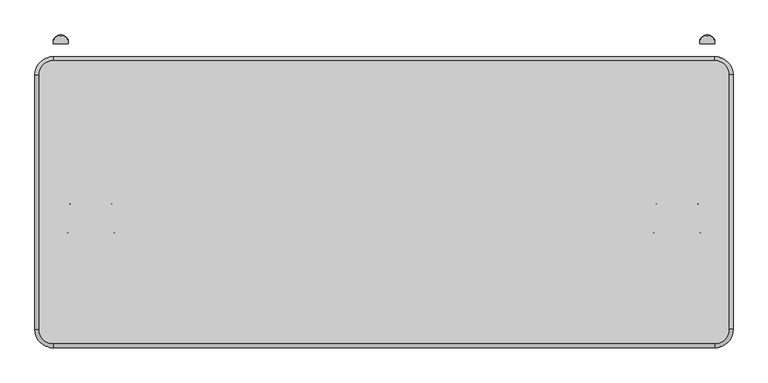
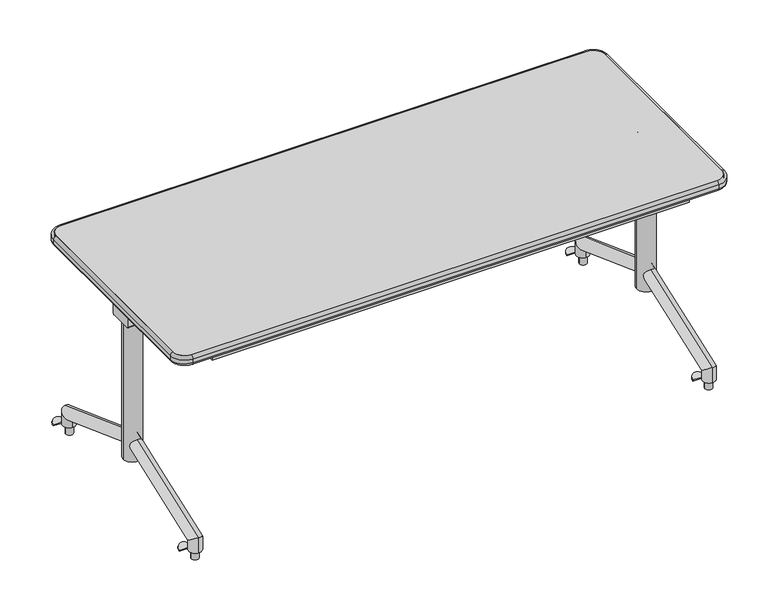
"""IFC4 building model written with IfcOpenShell, lengths in millimetres: furniture geometry, SmithSystem_AM_Table_Education_Elemental_NestAndFold_30D : 30D x 72W."""

from ifc_helpers import new_model, si_unit, point, frame, frame_2d, origin, place, context, project, spatial, polyline, circle_curve, ellipse_curve, trimmed, segment, composite_curve, outline, extrude, source, transform, mapped, element, save
from ifc_brep_helpers import plane_surface, cylinder_surface, revolved_surface, advanced_brep


def furniture_a024421f(model_context):
    return source(origin(), model_context, "Body", "SolidModel", [
        advanced_brep(
        [(1639.5134706, -376.5641301, 727.8257265), (1639.5134706, -383.8350093, 724.192725), (1631.8335156, -376.5641301, 727.8257265), (1631.8335156, -383.8350093, 724.192725), (1626.3159237, -388.7707555, 721.7265071), (1618.1879237, -388.7707555, 721.7265071), (1618.1879237, -454.0125708, 689.1274772), (1626.3159237, -454.0125708, 689.1274772), (1631.9310849, -459.0355973, 686.6176484), (1631.9310849, -466.3064765, 682.9846469), (1732.0139747, -466.3064765, 682.9846469), (1732.0139747, -459.0355973, 686.6176484), (1737.6070377, -454.0323387, 689.1175999), (1745.7350377, -454.0323387, 689.1175999), (1745.7350377, -388.8793981, 721.6722222), (1737.6070377, -388.8793981, 721.6722222), (1731.9679959, -383.8350093, 724.192725), (1731.9679959, -376.5641301, 727.8257265), (1724.4094908, -376.5641301, 727.8257265), (1724.4094908, -383.8350093, 724.192725)],
        [
            (0, 1, circle_curve(frame((1639.5134706, -380.1995697, 726.0092257), z_axis=(1.0, 0.0, 0.0), x_axis=(0.0, -0.8945471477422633, -0.4469736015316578)), 4.064)),
            (1, 0, circle_curve(frame((1639.5134706, -380.1995697, 726.0092257), z_axis=(1.0, 0.0, 0.0), x_axis=(0.0, -0.8945471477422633, -0.4469736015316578)), 4.064)),
            (0, 2),
            (2, 3, circle_curve(frame((1631.8335156, -380.1995697, 726.0092257), z_axis=(1.0, 0.0, 0.0), x_axis=(0.0, -0.8945471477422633, -0.4469736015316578)), 4.064)),
            (3, 1),
            (3, 2, circle_curve(frame((1631.8335156, -380.1995697, 726.0092257), z_axis=(1.0, 0.0, 0.0), x_axis=(0.0, -0.8945471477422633, -0.4469736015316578)), 4.064)),
            (4, 3, circle_curve(frame((1631.8335156, -388.7707555, 721.7265071), z_axis=(0.0, 0.4469736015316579, -0.8945471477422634), x_axis=(0.0, 0.8945471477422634, 0.4469736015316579)), 5.517592)),
            (2, 5, circle_curve(frame((1631.8335156, -388.7707555, 721.7265071), z_axis=(0.0, -0.4469736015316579, 0.8945471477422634), x_axis=(0.0, 0.8945471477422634, 0.4469736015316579)), 13.645592)),
            (5, 4, circle_curve(frame((1622.2519237, -388.7707555, 721.7265071), z_axis=(0.0, 0.8945471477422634, 0.44697360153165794), x_axis=(1.0, 0.0, 0.0)), 4.064)),
            (4, 5, circle_curve(frame((1622.2519237, -388.7707555, 721.7265071), z_axis=(0.0, 0.8945471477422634, 0.44697360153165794), x_axis=(1.0, 0.0, 0.0)), 4.064)),
            (5, 6),
            (6, 7, circle_curve(frame((1622.2519237, -454.0125708, 689.1274772), z_axis=(0.0, 0.8945471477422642, 0.4469736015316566), x_axis=(1.0, 0.0, 0.0)), 4.064)),
            (7, 4),
            (7, 6, circle_curve(frame((1622.2519237, -454.0125708, 689.1274772), z_axis=(0.0, 0.8945471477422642, 0.4469736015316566), x_axis=(1.0, 0.0, 0.0)), 4.064)),
            (8, 7, circle_curve(frame((1631.9310849, -454.0125708, 689.1274772), z_axis=(0.0, 0.4469736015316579, -0.8945471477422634), x_axis=(-1.0, 0.0, 0.0)), 5.6151612)),
            (6, 9, circle_curve(frame((1631.9310849, -454.0125708, 689.1274772), z_axis=(0.0, -0.4469736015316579, 0.8945471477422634), x_axis=(-1.0, 0.0, 0.0)), 13.7431612)),
            (9, 8, circle_curve(frame((1631.9310849, -462.6710369, 684.8011476), z_axis=(-1.0, 0.0, 0.0), x_axis=(0.0, 0.8945471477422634, 0.44697360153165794)), 4.064)),
            (8, 9, circle_curve(frame((1631.9310849, -462.6710369, 684.8011476), z_axis=(-1.0, 0.0, 0.0), x_axis=(0.0, 0.8945471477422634, 0.44697360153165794)), 4.064)),
            (9, 10),
            (10, 11, circle_curve(frame((1732.0139747, -462.6710369, 684.8011476), z_axis=(-1.0, 0.0, 0.0), x_axis=(0.0, 0.8945471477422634, 0.4469736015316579)), 4.064)),
            (11, 8),
            (11, 10, circle_curve(frame((1732.0139747, -462.6710369, 684.8011476), z_axis=(-1.0, 0.0, 0.0), x_axis=(0.0, 0.8945471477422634, 0.4469736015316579)), 4.064)),
            (12, 11, circle_curve(frame((1732.0139747, -454.0323387, 689.1175999), z_axis=(0.0, 0.4469736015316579, -0.8945471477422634), x_axis=(0.0, -0.8945471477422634, -0.4469736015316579)), 5.593063)),
            (10, 13, circle_curve(frame((1732.0139747, -454.0323387, 689.1175999), z_axis=(0.0, -0.4469736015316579, 0.8945471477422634), x_axis=(0.0, -0.8945471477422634, -0.4469736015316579)), 13.721063)),
            (13, 12, circle_curve(frame((1741.6710377, -454.0323387, 689.1175999), z_axis=(0.0, -0.8945471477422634, -0.44697360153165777), x_axis=(-1.0, 0.0, 0.0)), 4.064)),
            (12, 13, circle_curve(frame((1741.6710377, -454.0323387, 689.1175999), z_axis=(0.0, -0.8945471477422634, -0.44697360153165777), x_axis=(-1.0, 0.0, 0.0)), 4.064)),
            (13, 14),
            (14, 15, circle_curve(frame((1741.6710377, -388.8793981, 721.6722222), z_axis=(0.0, -0.8945471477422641, -0.4469736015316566), x_axis=(-1.0, 0.0, 0.0)), 4.064)),
            (15, 12),
            (15, 14, circle_curve(frame((1741.6710377, -388.8793981, 721.6722222), z_axis=(0.0, -0.8945471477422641, -0.4469736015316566), x_axis=(-1.0, 0.0, 0.0)), 4.064)),
            (16, 15, circle_curve(frame((1731.9679959, -388.8793981, 721.6722222), z_axis=(0.0, 0.4469736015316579, -0.8945471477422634), x_axis=(1.0, 0.0, 0.0)), 5.6390418)),
            (14, 17, circle_curve(frame((1731.9679959, -388.8793981, 721.6722222), z_axis=(0.0, -0.4469736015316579, 0.8945471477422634), x_axis=(1.0, 0.0, 0.0)), 13.7670418)),
            (17, 16, circle_curve(frame((1731.9679959, -380.1995697, 726.0092257), z_axis=(1.0, 0.0, 0.0), x_axis=(0.0, -0.8945471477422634, -0.4469736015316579)), 4.064)),
            (16, 17, circle_curve(frame((1731.9679959, -380.1995697, 726.0092257), z_axis=(1.0, 0.0, 0.0), x_axis=(0.0, -0.8945471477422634, -0.4469736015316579)), 4.064)),
            (18, 19, circle_curve(frame((1724.4094908, -380.1995697, 726.0092257), z_axis=(-1.0, 0.0, 0.0), x_axis=(0.0, -0.8945471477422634, -0.4469736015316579)), 4.064)),
            (19, 18, circle_curve(frame((1724.4094908, -380.1995697, 726.0092257), z_axis=(-1.0, 0.0, 0.0), x_axis=(0.0, -0.8945471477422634, -0.4469736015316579)), 4.064)),
            (17, 18),
            (19, 16),
        ],
        [
            plane_surface(frame((1639.5134706, -370.4506725, 697.3892853), z_axis=(1.0, 0.0, 0.0), x_axis=(0.0, -0.4469736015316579, 0.8945471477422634))),
            cylinder_surface(frame((1639.5134706, -380.1995697, 726.0092257), z_axis=(0.9999999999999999, 0.0, 0.0), x_axis=(0.0, -0.8945471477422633, -0.4469736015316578)), 4.064),
            revolved_surface(trimmed(ellipse_curve(frame((1631.8335156, -380.1995697, 726.0092257), z_axis=(1.0, 0.0, 0.0), x_axis=(0.0, -0.8945471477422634, -0.4469736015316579)), 4.064, 4.064), [point((1631.8335156, -376.5641301, 727.8257265))], [point((1631.8335156, -383.8350093, 724.192725))], True, "CARTESIAN"), (1631.8335156, -375.3797009, 694.926424), (0.0, -0.4469736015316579, 0.8945471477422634)),
            revolved_surface(trimmed(ellipse_curve(frame((1631.8335156, -380.1995697, 726.0092257), z_axis=(1.0, 0.0, 0.0), x_axis=(0.0, -0.8945471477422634, -0.4469736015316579)), 4.064, 4.064), [point((1631.8335156, -383.8350093, 724.192725))], [point((1631.8335156, -376.5641301, 727.8257265))], True, "CARTESIAN"), (1631.8335156, -375.3797009, 694.926424), (0.0, -0.4469736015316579, 0.8945471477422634)),
            cylinder_surface(frame((1622.2519237, -388.7707555, 721.7265071), z_axis=(0.0, 0.894547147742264, 0.4469736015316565), x_axis=(1.0, 0.0, 0.0)), 4.064),
            revolved_surface(trimmed(ellipse_curve(frame((1622.2519237, -454.0125708, 689.1274772), z_axis=(0.0, 0.8945471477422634, 0.446973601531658), x_axis=(1.0, 0.0, 0.0)), 4.064, 4.064), [point((1618.1879237, -454.0125708, 689.1274772))], [point((1626.3159237, -454.0125708, 689.1274772))], True, "CARTESIAN"), (1631.9310849, -440.6215163, 662.3273941), (0.0, -0.4469736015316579, 0.8945471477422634)),
            revolved_surface(trimmed(ellipse_curve(frame((1622.2519237, -454.0125708, 689.1274772), z_axis=(0.0, 0.8945471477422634, 0.446973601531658), x_axis=(1.0, 0.0, 0.0)), 4.064, 4.064), [point((1626.3159237, -454.0125708, 689.1274772))], [point((1618.1879237, -454.0125708, 689.1274772))], True, "CARTESIAN"), (1631.9310849, -440.6215163, 662.3273941), (0.0, -0.4469736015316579, 0.8945471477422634)),
            cylinder_surface(frame((1631.9310849, -462.6710369, 684.8011476), z_axis=(-1.0, 0.0, 0.0), x_axis=(0.0, 0.8945471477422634, 0.4469736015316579)), 4.064),
            revolved_surface(trimmed(ellipse_curve(frame((1732.0139747, -462.6710369, 684.8011476), z_axis=(-1.0, 0.0, 0.0), x_axis=(0.0, 0.8945471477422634, 0.4469736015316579)), 4.064, 4.064), [point((1732.0139747, -466.3064765, 682.9846469))], [point((1732.0139747, -459.0355973, 686.6176484))], True, "CARTESIAN"), (1732.0139747, -440.6412842, 662.3175168), (0.0, -0.4469736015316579, 0.8945471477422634)),
            revolved_surface(trimmed(ellipse_curve(frame((1732.0139747, -462.6710369, 684.8011476), z_axis=(-1.0, 0.0, 0.0), x_axis=(0.0, 0.8945471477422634, 0.4469736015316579)), 4.064, 4.064), [point((1732.0139747, -459.0355973, 686.6176484))], [point((1732.0139747, -466.3064765, 682.9846469))], True, "CARTESIAN"), (1732.0139747, -440.6412842, 662.3175168), (0.0, -0.4469736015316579, 0.8945471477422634)),
            cylinder_surface(frame((1741.6710377, -454.0323387, 689.1175999), z_axis=(0.0, -0.8945471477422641, -0.4469736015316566), x_axis=(-1.0, 0.0, 0.0)), 4.064),
            revolved_surface(trimmed(ellipse_curve(frame((1741.6710377, -388.8793981, 721.6722222), z_axis=(0.0, -0.8945471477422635, -0.44697360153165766), x_axis=(-1.0, 0.0, 0.0)), 4.064, 4.064), [point((1745.7350377, -388.8793981, 721.6722222))], [point((1737.6070377, -388.8793981, 721.6722222))], True, "CARTESIAN"), (1731.9679959, -375.4883435, 694.8721391), (0.0, -0.4469736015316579, 0.8945471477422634)),
            revolved_surface(trimmed(ellipse_curve(frame((1741.6710377, -388.8793981, 721.6722222), z_axis=(0.0, -0.8945471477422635, -0.44697360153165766), x_axis=(-1.0, 0.0, 0.0)), 4.064, 4.064), [point((1737.6070377, -388.8793981, 721.6722222))], [point((1745.7350377, -388.8793981, 721.6722222))], True, "CARTESIAN"), (1731.9679959, -375.4883435, 694.8721391), (0.0, -0.4469736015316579, 0.8945471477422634)),
            plane_surface(frame((1724.4094908, -370.4506725, 697.3892853), z_axis=(-1.0000000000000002, 0.0, 0.0), x_axis=(0.0, -0.4469736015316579, 0.8945471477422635))),
            cylinder_surface(frame((1731.9679959, -380.1995697, 726.0092257), z_axis=(1.0, 0.0, 0.0), x_axis=(0.0, -0.8945471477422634, -0.4469736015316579)), 4.064),
        ],
        [
            (0, [[1, 2]]),
            (1, [[-1, 3, 4, 5]]),
            (1, [[-2, -5, 6, -3]]),
            (2, [[7, -4, 8, 9]]),
            (3, [[-8, -6, -7, 10]]),
            (4, [[-9, 11, 12, 13]]),
            (4, [[-10, -13, 14, -11]]),
            (5, [[15, -12, 16, 17]]),
            (6, [[-16, -14, -15, 18]]),
            (7, [[-17, 19, 20, 21]]),
            (7, [[-18, -21, 22, -19]]),
            (8, [[23, -20, 24, 25]]),
            (9, [[-24, -22, -23, 26]]),
            (10, [[-25, 27, 28, 29]]),
            (10, [[-26, -29, 30, -27]]),
            (11, [[31, -28, 32, 33]]),
            (12, [[-32, -30, -31, 34]]),
            (13, [[35, 36]]),
            (14, [[-33, 37, -36, 38]]),
            (14, [[-34, -38, -35, -37]]),
        ],
    ),
        advanced_brep(
        [(189.2865294, -383.8222215, 724.1897867), (189.2865294, -376.5513423, 727.8227881), (196.9664844, -383.8222215, 724.1897867), (196.9664844, -376.5513423, 727.8227881), (210.6222023, -388.7670258, 721.7190427), (202.4942023, -388.7670258, 721.7190427), (202.4942023, -454.0088411, 689.1200128), (210.6222023, -454.0088411, 689.1200128), (196.8689151, -466.3118049, 682.9726565), (196.8689151, -459.0409257, 686.605658), (96.7860253, -459.0409257, 686.605658), (96.7860253, -466.3118049, 682.9726565), (83.0548363, -454.0286091, 689.1101355), (91.1828363, -454.0286091, 689.1101355), (91.1828363, -388.8756684, 721.6647578), (83.0548363, -388.8756684, 721.6647578), (96.8320041, -376.5513423, 727.8227881), (96.8320041, -383.8222215, 724.1897867), (104.3905092, -383.8222215, 724.1897867), (104.3905092, -376.5513423, 727.8227881)],
        [
            (0, 1, circle_curve(frame((189.2865294, -380.1867819, 726.0062874), z_axis=(-1.0, 0.0, 0.0), x_axis=(0.0, 0.8945471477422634, 0.4469736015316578)), 4.064)),
            (1, 0, circle_curve(frame((189.2865294, -380.1867819, 726.0062874), z_axis=(-1.0, 0.0, 0.0), x_axis=(0.0, 0.8945471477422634, 0.4469736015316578)), 4.064)),
            (0, 2),
            (2, 3, circle_curve(frame((196.9664844, -380.1867819, 726.0062874), z_axis=(-1.0, 0.0, 0.0), x_axis=(0.0, 0.8945471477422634, 0.4469736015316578)), 4.064)),
            (3, 1),
            (3, 2, circle_curve(frame((196.9664844, -380.1867819, 726.0062874), z_axis=(-1.0, 0.0, 0.0), x_axis=(0.0, 0.8945471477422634, 0.4469736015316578)), 4.064)),
            (4, 3, circle_curve(frame((196.9664844, -388.7670258, 721.7190427), z_axis=(0.0, -0.4469736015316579, 0.8945471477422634), x_axis=(0.0, 0.8945471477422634, 0.4469736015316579)), 13.6557179)),
            (2, 5, circle_curve(frame((196.9664844, -388.7670258, 721.7190427), z_axis=(0.0, 0.4469736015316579, -0.8945471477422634), x_axis=(0.0, 0.8945471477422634, 0.4469736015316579)), 5.5277179)),
            (5, 4, circle_curve(frame((206.5582023, -388.7670258, 721.7190427), z_axis=(0.0, 0.8945471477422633, 0.446973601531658), x_axis=(1.0, 0.0, 0.0)), 4.064)),
            (4, 5, circle_curve(frame((206.5582023, -388.7670258, 721.7190427), z_axis=(0.0, 0.8945471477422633, 0.446973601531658), x_axis=(1.0, 0.0, 0.0)), 4.064)),
            (5, 6),
            (6, 7, circle_curve(frame((206.5582023, -454.0088411, 689.1200128), z_axis=(0.0, 0.8945471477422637, 0.4469736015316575), x_axis=(1.0, 0.0, 0.0)), 4.064)),
            (7, 4),
            (7, 6, circle_curve(frame((206.5582023, -454.0088411, 689.1200128), z_axis=(0.0, 0.8945471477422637, 0.4469736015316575), x_axis=(1.0, 0.0, 0.0)), 4.064)),
            (8, 7, circle_curve(frame((196.8689151, -454.0088411, 689.1200128), z_axis=(0.0, -0.4469736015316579, 0.8945471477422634), x_axis=(1.0, 0.0, 0.0)), 13.7532872)),
            (6, 9, circle_curve(frame((196.8689151, -454.0088411, 689.1200128), z_axis=(0.0, 0.4469736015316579, -0.8945471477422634), x_axis=(1.0, 0.0, 0.0)), 5.6252872)),
            (9, 8, circle_curve(frame((196.8689151, -462.6763653, 684.7891573), z_axis=(1.0, 0.0, 0.0), x_axis=(0.0, -0.8945471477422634, -0.44697360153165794)), 4.064)),
            (8, 9, circle_curve(frame((196.8689151, -462.6763653, 684.7891573), z_axis=(1.0, 0.0, 0.0), x_axis=(0.0, -0.8945471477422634, -0.44697360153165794)), 4.064)),
            (9, 10),
            (10, 11, circle_curve(frame((96.7860253, -462.6763653, 684.7891573), z_axis=(1.0, 0.0, 0.0), x_axis=(0.0, -0.8945471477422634, -0.446973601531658)), 4.064)),
            (11, 8),
            (11, 10, circle_curve(frame((96.7860253, -462.6763653, 684.7891573), z_axis=(1.0, 0.0, 0.0), x_axis=(0.0, -0.8945471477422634, -0.446973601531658)), 4.064)),
            (12, 11, circle_curve(frame((96.7860253, -454.0286091, 689.1101355), z_axis=(0.0, -0.4469736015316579, 0.8945471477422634), x_axis=(0.0, -0.8945471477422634, -0.4469736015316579)), 13.7311889)),
            (10, 13, circle_curve(frame((96.7860253, -454.0286091, 689.1101355), z_axis=(0.0, 0.4469736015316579, -0.8945471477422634), x_axis=(0.0, -0.8945471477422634, -0.4469736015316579)), 5.6031889)),
            (13, 12, circle_curve(frame((87.1188363, -454.0286091, 689.1101355), z_axis=(0.0, -0.8945471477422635, -0.44697360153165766), x_axis=(-1.0, 0.0, 0.0)), 4.064)),
            (12, 13, circle_curve(frame((87.1188363, -454.0286091, 689.1101355), z_axis=(0.0, -0.8945471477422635, -0.44697360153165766), x_axis=(-1.0, 0.0, 0.0)), 4.064)),
            (13, 14),
            (14, 15, circle_curve(frame((87.1188363, -388.8756684, 721.6647578), z_axis=(0.0, -0.8945471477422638, -0.446973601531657), x_axis=(-1.0, 0.0, 0.0)), 4.064)),
            (15, 12),
            (15, 14, circle_curve(frame((87.1188363, -388.8756684, 721.6647578), z_axis=(0.0, -0.8945471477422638, -0.446973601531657), x_axis=(-1.0, 0.0, 0.0)), 4.064)),
            (16, 15, circle_curve(frame((96.8320041, -388.8756684, 721.6647578), z_axis=(0.0, -0.4469736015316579, 0.8945471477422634), x_axis=(-1.0, 0.0, 0.0)), 13.7771678)),
            (14, 17, circle_curve(frame((96.8320041, -388.8756684, 721.6647578), z_axis=(0.0, 0.4469736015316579, -0.8945471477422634), x_axis=(-1.0, 0.0, 0.0)), 5.6491678)),
            (17, 16, circle_curve(frame((96.8320041, -380.1867819, 726.0062874), z_axis=(-1.0, 0.0, 0.0), x_axis=(0.0, 0.8945471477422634, 0.44697360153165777)), 4.064)),
            (16, 17, circle_curve(frame((96.8320041, -380.1867819, 726.0062874), z_axis=(-1.0, 0.0, 0.0), x_axis=(0.0, 0.8945471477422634, 0.44697360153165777)), 4.064)),
            (18, 19, circle_curve(frame((104.3905092, -380.1867819, 726.0062874), z_axis=(1.0, 0.0, 0.0), x_axis=(0.0, 0.8945471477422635, 0.44697360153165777)), 4.064)),
            (19, 18, circle_curve(frame((104.3905092, -380.1867819, 726.0062874), z_axis=(1.0, 0.0, 0.0), x_axis=(0.0, 0.8945471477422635, 0.44697360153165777)), 4.064)),
            (17, 18),
            (19, 16),
        ],
        [
            plane_surface(frame((189.2865294, -385.67432, 727.857014), z_axis=(-1.0, 0.0, 0.0), x_axis=(0.0, -0.4469736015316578, 0.8945471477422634))),
            cylinder_surface(frame((189.2865294, -380.1867819, 726.0062874), z_axis=(-0.9999999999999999, 0.0, 0.0), x_axis=(0.0, 0.8945471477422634, 0.4469736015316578)), 4.064),
            revolved_surface(trimmed(ellipse_curve(frame((196.9664844, -380.1867819, 726.0062874), z_axis=(-1.0, 0.0, 0.0), x_axis=(0.0, 0.8945471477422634, 0.4469736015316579)), 4.064, 4.064), [point((196.9664844, -383.8222215, 724.1897867))], [point((196.9664844, -376.5513423, 727.8227881))], True, "CARTESIAN"), (196.9664844, -390.6033484, 725.3941527), (0.0, 0.4469736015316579, -0.8945471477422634)),
            revolved_surface(trimmed(ellipse_curve(frame((196.9664844, -380.1867819, 726.0062874), z_axis=(-1.0, 0.0, 0.0), x_axis=(0.0, 0.8945471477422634, 0.4469736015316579)), 4.064, 4.064), [point((196.9664844, -376.5513423, 727.8227881))], [point((196.9664844, -383.8222215, 724.1897867))], True, "CARTESIAN"), (196.9664844, -390.6033484, 725.3941527), (0.0, 0.4469736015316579, -0.8945471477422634)),
            cylinder_surface(frame((206.5582023, -388.7670258, 721.7190427), z_axis=(0.0, 0.8945471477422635, 0.4469736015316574), x_axis=(1.0, 0.0, 0.0)), 4.064),
            revolved_surface(trimmed(ellipse_curve(frame((206.5582023, -454.0088411, 689.1200128), z_axis=(0.0, 0.8945471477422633, 0.4469736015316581), x_axis=(1.0, 0.0, 0.0)), 4.064, 4.064), [point((202.4942023, -454.0088411, 689.1200128))], [point((210.6222023, -454.0088411, 689.1200128))], True, "CARTESIAN"), (196.8689151, -455.8451638, 692.7951229), (0.0, 0.4469736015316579, -0.8945471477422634)),
            revolved_surface(trimmed(ellipse_curve(frame((206.5582023, -454.0088411, 689.1200128), z_axis=(0.0, 0.8945471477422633, 0.4469736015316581), x_axis=(1.0, 0.0, 0.0)), 4.064, 4.064), [point((210.6222023, -454.0088411, 689.1200128))], [point((202.4942023, -454.0088411, 689.1200128))], True, "CARTESIAN"), (196.8689151, -455.8451638, 692.7951229), (0.0, 0.4469736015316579, -0.8945471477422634)),
            cylinder_surface(frame((196.8689151, -462.6763653, 684.7891573), z_axis=(1.0, 0.0, 0.0), x_axis=(0.0, -0.8945471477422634, -0.446973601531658)), 4.064),
            revolved_surface(trimmed(ellipse_curve(frame((96.7860253, -462.6763653, 684.7891573), z_axis=(1.0, 0.0, 0.0), x_axis=(0.0, -0.8945471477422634, -0.446973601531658)), 4.064, 4.064), [point((96.7860253, -459.0409257, 686.605658))], [point((96.7860253, -466.3118049, 682.9726565))], True, "CARTESIAN"), (96.7860253, -455.8649317, 692.7852455), (0.0, 0.4469736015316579, -0.8945471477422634)),
            revolved_surface(trimmed(ellipse_curve(frame((96.7860253, -462.6763653, 684.7891573), z_axis=(1.0, 0.0, 0.0), x_axis=(0.0, -0.8945471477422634, -0.446973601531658)), 4.064, 4.064), [point((96.7860253, -466.3118049, 682.9726565))], [point((96.7860253, -459.0409257, 686.605658))], True, "CARTESIAN"), (96.7860253, -455.8649317, 692.7852455), (0.0, 0.4469736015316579, -0.8945471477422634)),
            cylinder_surface(frame((87.1188363, -454.0286091, 689.1101355), z_axis=(0.0, -0.8945471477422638, -0.446973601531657), x_axis=(-1.0, 0.0, 0.0)), 4.064),
            revolved_surface(trimmed(ellipse_curve(frame((87.1188363, -388.8756684, 721.6647578), z_axis=(0.0, -0.8945471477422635, -0.4469736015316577), x_axis=(-1.0, 0.0, 0.0)), 4.064, 4.064), [point((91.1828363, -388.8756684, 721.6647578))], [point((83.0548363, -388.8756684, 721.6647578))], True, "CARTESIAN"), (96.8320041, -390.711991, 725.3398679), (0.0, 0.4469736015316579, -0.8945471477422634)),
            revolved_surface(trimmed(ellipse_curve(frame((87.1188363, -388.8756684, 721.6647578), z_axis=(0.0, -0.8945471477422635, -0.4469736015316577), x_axis=(-1.0, 0.0, 0.0)), 4.064, 4.064), [point((83.0548363, -388.8756684, 721.6647578))], [point((91.1828363, -388.8756684, 721.6647578))], True, "CARTESIAN"), (96.8320041, -390.711991, 725.3398679), (0.0, 0.4469736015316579, -0.8945471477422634)),
            plane_surface(frame((104.3905092, -385.67432, 727.857014), z_axis=(1.0, 0.0, 0.0), x_axis=(0.0, -0.4469736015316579, 0.8945471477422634))),
            cylinder_surface(frame((96.8320041, -380.1867819, 726.0062874), z_axis=(-1.0000000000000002, 0.0, 0.0), x_axis=(0.0, 0.8945471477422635, 0.44697360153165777)), 4.064),
        ],
        [
            (0, [[1, 2]]),
            (1, [[-1, 3, 4, 5]]),
            (1, [[-2, -5, 6, -3]]),
            (2, [[7, -4, 8, 9]]),
            (3, [[-8, -6, -7, 10]]),
            (4, [[-9, 11, 12, 13]]),
            (4, [[-10, -13, 14, -11]]),
            (5, [[15, -12, 16, 17]]),
            (6, [[-16, -14, -15, 18]]),
            (7, [[-17, 19, 20, 21]]),
            (7, [[-18, -21, 22, -19]]),
            (8, [[23, -20, 24, 25]]),
            (9, [[-24, -22, -23, 26]]),
            (10, [[-25, 27, 28, 29]]),
            (10, [[-26, -29, 30, -27]]),
            (11, [[31, -28, 32, 33]]),
            (12, [[-32, -30, -31, 34]]),
            (13, [[35, 36]]),
            (14, [[-33, 37, -36, 38]]),
            (14, [[-34, -38, -35, -37]]),
        ],
    ),
        extrude(outline(composite_curve([segment(trimmed(circle_curve(frame_2d((67.6376194, -381.0)), 30.1619336), [point((37.4756858, -381.0))], [point((97.799553, -381.0))], False, "CARTESIAN"), True, "CONTINUOUS"), segment(trimmed(circle_curve(frame_2d((67.6376194, -381.0)), 30.1619336), [point((97.799553, -381.0))], [point((37.4756858, -381.0))], False, "CARTESIAN"), True, "CONTINUOUS")], self_intersect=False)), frame((0.0, 0.0, 176.5765345), z_axis=(0.0, 0.0, 1.0), x_axis=(1.0, 0.0, 0.0)), (0.0, 0.0, 1.0), 482.8708043),
        extrude(outline(composite_curve([segment(trimmed(circle_curve(frame_2d((1761.1623806, -381.0)), 30.1619336), [point((1731.000447, -381.0))], [point((1791.3243142, -381.0))], False, "CARTESIAN"), True, "CONTINUOUS"), segment(trimmed(circle_curve(frame_2d((1761.1623806, -381.0)), 30.1619336), [point((1791.3243142, -381.0))], [point((1731.000447, -381.0))], False, "CARTESIAN"), True, "CONTINUOUS")], self_intersect=False)), frame((0.0, 0.0, 176.5765345), z_axis=(0.0, 0.0, 1.0), x_axis=(1.0, 0.0, 0.0)), (0.0, 0.0, 1.0), 482.8708043),
        extrude(outline(polyline([(161.8904019, -703.4143137), (133.8581916, -703.4143137), (133.8581916, -327.1633652), (161.8904019, -327.1633652), (161.8904019, -703.4143137)])), frame((0.0, 0.0, 720.280274), z_axis=(0.0, 0.0, 1.0), x_axis=(1.0, 0.0, 0.0)), (0.0, 0.0, 1.0), 3.0744342),
        extrude(outline(polyline([(1694.9418084, -703.4143137), (1666.9095981, -703.4143137), (1666.9095981, -327.1633652), (1694.9418084, -327.1633652), (1694.9418084, -703.4143137)])), frame((0.0, 0.0, 720.280274), z_axis=(0.0, 0.0, 1.0), x_axis=(1.0, 0.0, 0.0)), (0.0, 0.0, 1.0), 3.0744342),
        extrude(outline(polyline([(1700.4745397, -703.4143137), (1700.4745397, -733.4147172), (128.3254603, -733.4147172), (128.3254603, -703.4143137), (1700.4745397, -703.4143137)])), frame((0.0, 0.0, 702.9875008), z_axis=(0.0, 0.0, 1.0), x_axis=(1.0, 0.0, 0.0)), (0.0, 0.0, 1.0), 20.3672075),
        extrude(outline(polyline([(-358.6370254, 730.2285912), (-336.5053067, 730.2285912), (-336.5053067, 727.8836076), (-355.5992263, 727.8836076), (-355.5992263, 699.4317459), (-406.4007737, 699.4317459), (-406.4007737, 727.8836076), (-425.4946933, 727.8836076), (-425.4946933, 730.2285912), (-403.3629746, 730.2285912), (-403.3629746, 701.4207676), (-358.6370254, 701.4207676), (-358.6370254, 730.2285912)])), frame((211.3171616, 0.0, 0.0), z_axis=(1.0, 0.0, 0.0), x_axis=(0.0, 1.0, 0.0)), (0.0, 0.0, 1.0), 1406.1656767),
        extrude(outline(polyline([(699.4317459, 102.364461), (699.4317459, 191.3646412), (730.2285912, 191.3646412), (730.2285912, 188.3699958), (702.6757476, 188.3699958), (702.6757476, 105.3591064), (730.2285912, 105.3591064), (730.2285912, 102.364461), (699.4317459, 102.364461)])), frame((0.0, -556.0003829, 0.0), z_axis=(0.0, 1.0, 0.0), x_axis=(0.0, 0.0, 1.0)), (0.0, 0.0, 1.0), 349.9998846),
        extrude(outline(polyline([(699.4317459, 1726.435539), (730.2285912, 1726.435539), (730.2285912, 1723.4408936), (702.6757476, 1723.4408936), (702.6757476, 1640.4300042), (730.2285912, 1640.4300042), (730.2285912, 1637.4353588), (699.4317459, 1637.4353588), (699.4317459, 1726.435539)])), frame((0.0, -556.0003829, 0.0), z_axis=(0.0, 1.0, 0.0), x_axis=(0.0, 0.0, 1.0)), (0.0, 0.0, 1.0), 349.9998846),
        extrude(outline(composite_curve([segment(polyline([(-417.9081299, 699.4317459), (-343.9421288, 699.4317459)]), True, "CONTINUOUS"), segment(trimmed(circle_curve(frame_2d((-343.9421288, 696.268135)), 3.1636109), [point((-343.9421288, 699.4317459))], [point((-340.7785179, 696.268135))], False, "CARTESIAN"), True, "CONTINUOUS"), segment(polyline([(-340.7785179, 696.268135), (-340.7785179, 662.5890828)]), True, "CONTINUOUS"), segment(trimmed(circle_curve(frame_2d((-343.920262, 662.5890828)), 3.1417441), [point((-340.7785179, 662.5890828))], [point((-343.920262, 659.4473388))], False, "CARTESIAN"), True, "CONTINUOUS"), segment(polyline([(-343.920262, 659.4473388), (-418.0879819, 659.4473388)]), True, "CONTINUOUS"), segment(trimmed(circle_curve(frame_2d((-418.0879819, 662.3885905)), 2.9412518), [point((-418.0879819, 659.4473388))], [point((-421.0292336, 662.3885905))], False, "CARTESIAN"), True, "CONTINUOUS"), segment(polyline([(-421.0292336, 662.3885905), (-421.0292336, 696.3106422)]), True, "CONTINUOUS"), segment(trimmed(circle_curve(frame_2d((-417.9081299, 696.3106422)), 3.1211038), [point((-421.0292336, 696.3106422))], [point((-417.9081299, 699.4317459))], False, "CARTESIAN"), True, "CONTINUOUS")], self_intersect=False)), frame((29.2900918, 0.0, 0.0), z_axis=(1.0, 0.0, 0.0), x_axis=(0.0, 1.0, 0.0)), (0.0, 0.0, 1.0), 1770.2198163),
        advanced_brep(
        [(0.0, -47.752, 752.475029), (47.752, 0.0, 752.475029), (47.752, 0.0, 739.7749708), (0.0, -47.752, 739.7749708), (9.652, -47.752, 762.0), (47.752, -9.652, 762.0), (9.652, -47.752, 730.2285912), (47.752, -9.652, 730.2285912), (0.0, -714.248, 739.7749708), (0.0, -714.248, 752.475029), (9.652, -714.248, 762.0), (9.652, -714.248, 730.2285912), (47.752, -762.0, 752.475029), (47.752, -762.0, 739.7749708), (47.752, -752.348, 762.0), (47.752, -752.348, 730.2285912), (1781.048, -762.0, 739.7749708), (1781.048, -762.0, 752.475029), (1781.048, -752.348, 762.0), (1781.048, -752.348, 730.2285912), (1828.8, -714.248, 752.475029), (1828.8, -714.248, 739.7749708), (1819.148, -714.248, 762.0), (1819.148, -714.248, 730.2285912), (1828.8, -47.752, 739.7749708), (1828.8, -47.752, 752.475029), (1819.148, -47.752, 762.0), (1819.148, -47.752, 730.2285912), (1781.048, 0.0, 752.475029), (1781.048, 0.0, 739.7749708), (1781.048, -9.652, 762.0), (1781.048, -9.652, 730.2285912)],
        [
            (0, 1, circle_curve(frame((47.752, -47.752, 752.475029), z_axis=(0.0, 0.0, -1.0), x_axis=(0.0, 1.0, 0.0)), 47.752)),
            (1, 2),
            (2, 3, circle_curve(frame((47.752, -47.752, 739.7749708), z_axis=(0.0, 0.0, 1.0), x_axis=(0.0, 1.0, 0.0)), 47.752)),
            (3, 0),
            (4, 5, circle_curve(frame((47.752, -47.752, 762.0), z_axis=(0.0, 0.0, -1.0), x_axis=(0.0, 1.0, 0.0)), 38.1)),
            (5, 1, circle_curve(frame((47.752, -9.5258069, 752.475029), z_axis=(-1.0, 0.0, 0.0), x_axis=(0.0, -1.0, 0.0)), 9.5258069)),
            (0, 4, circle_curve(frame((9.5258069, -47.752, 752.475029), z_axis=(0.0, 1.0, 0.0), x_axis=(1.0, 0.0, 0.0)), 9.5258069)),
            (6, 7, circle_curve(frame((47.752, -47.752, 730.2285912), z_axis=(0.0, 0.0, -1.0), x_axis=(0.0, 1.0, 0.0)), 38.1)),
            (7, 5),
            (4, 6),
            (2, 7, circle_curve(frame((47.752, -9.5469575, 739.7749708), z_axis=(-1.0, 0.0, 0.0), x_axis=(0.0, -1.0, 0.0)), 9.5469575)),
            (6, 3, circle_curve(frame((9.5469575, -47.752, 739.7749708), z_axis=(0.0, 1.0, 0.0), x_axis=(1.0, 0.0, 0.0)), 9.5469575)),
            (3, 8),
            (8, 9),
            (9, 0),
            (9, 10, circle_curve(frame((9.5258069, -714.248, 752.475029), z_axis=(0.0, 1.0, 0.0), x_axis=(1.0, 0.0, 0.0)), 9.5258069)),
            (10, 4),
            (10, 11),
            (11, 6),
            (11, 8, circle_curve(frame((9.5469575, -714.248, 739.7749708), z_axis=(0.0, 1.0, 0.0), x_axis=(1.0, 0.0, 0.0)), 9.5469575)),
            (12, 9, circle_curve(frame((47.752, -714.248, 752.475029), z_axis=(0.0, 0.0, -1.0), x_axis=(-1.0, 0.0, 0.0)), 47.752)),
            (8, 13, circle_curve(frame((47.752, -714.248, 739.7749708), z_axis=(0.0, 0.0, 1.0), x_axis=(-1.0, 0.0, 0.0)), 47.752)),
            (13, 12),
            (14, 10, circle_curve(frame((47.752, -714.248, 762.0), z_axis=(0.0, 0.0, -1.0), x_axis=(-1.0, 0.0, 0.0)), 38.1)),
            (12, 14, circle_curve(frame((47.752, -752.4741931, 752.475029), z_axis=(-1.0, 0.0, 0.0), x_axis=(0.0, 1.0, 0.0)), 9.5258069)),
            (15, 11, circle_curve(frame((47.752, -714.248, 730.2285912), z_axis=(0.0, 0.0, -1.0), x_axis=(-1.0, 0.0, 0.0)), 38.1)),
            (14, 15),
            (15, 13, circle_curve(frame((47.752, -752.4530425, 739.7749708), z_axis=(-1.0, 0.0, 0.0), x_axis=(0.0, 1.0, 0.0)), 9.5469575)),
            (13, 16),
            (16, 17),
            (17, 12),
            (17, 18, circle_curve(frame((1781.048, -752.4741931, 752.475029), z_axis=(-1.0, 0.0, 0.0), x_axis=(0.0, 1.0, 0.0)), 9.5258069)),
            (18, 14),
            (18, 19),
            (19, 15),
            (19, 16, circle_curve(frame((1781.048, -752.4530425, 739.7749708), z_axis=(-1.0, 0.0, 0.0), x_axis=(0.0, 1.0, 0.0)), 9.5469575)),
            (20, 17, circle_curve(frame((1781.048, -714.248, 752.475029), z_axis=(0.0, 0.0, -1.0), x_axis=(0.0, -1.0, 0.0)), 47.752)),
            (16, 21, circle_curve(frame((1781.048, -714.248, 739.7749708), z_axis=(0.0, 0.0, 1.0), x_axis=(0.0, -1.0, 0.0)), 47.752)),
            (21, 20),
            (22, 18, circle_curve(frame((1781.048, -714.248, 762.0), z_axis=(0.0, 0.0, -1.0), x_axis=(0.0, -1.0, 0.0)), 38.1)),
            (20, 22, circle_curve(frame((1819.2741931, -714.248, 752.475029), z_axis=(0.0, -1.0, 0.0), x_axis=(-1.0, 0.0, 0.0)), 9.5258069)),
            (23, 19, circle_curve(frame((1781.048, -714.248, 730.2285912), z_axis=(0.0, 0.0, -1.0), x_axis=(0.0, -1.0, 0.0)), 38.1)),
            (22, 23),
            (23, 21, circle_curve(frame((1819.2530425, -714.248, 739.7749708), z_axis=(0.0, -1.0, 0.0), x_axis=(-1.0, 0.0, 0.0)), 9.5469575)),
            (21, 24),
            (24, 25),
            (25, 20),
            (25, 26, circle_curve(frame((1819.2741931, -47.752, 752.475029), z_axis=(0.0, -1.0, 0.0), x_axis=(-1.0, 0.0, 0.0)), 9.5258069)),
            (26, 22),
            (26, 27),
            (27, 23),
            (27, 24, circle_curve(frame((1819.2530425, -47.752, 739.7749708), z_axis=(0.0, -1.0, 0.0), x_axis=(-1.0, 0.0, 0.0)), 9.5469575)),
            (28, 25, circle_curve(frame((1781.048, -47.752, 752.475029), z_axis=(0.0, 0.0, -1.0), x_axis=(1.0, 0.0, 0.0)), 47.752)),
            (24, 29, circle_curve(frame((1781.048, -47.752, 739.7749708), z_axis=(0.0, 0.0, 1.0), x_axis=(1.0, 0.0, 0.0)), 47.752)),
            (29, 28),
            (30, 26, circle_curve(frame((1781.048, -47.752, 762.0), z_axis=(0.0, 0.0, -1.0), x_axis=(1.0, 0.0, 0.0)), 38.1)),
            (28, 30, circle_curve(frame((1781.048, -9.5258069, 752.475029), z_axis=(1.0, 0.0, 0.0), x_axis=(0.0, -1.0, 0.0)), 9.5258069)),
            (31, 27, circle_curve(frame((1781.048, -47.752, 730.2285912), z_axis=(0.0, 0.0, -1.0), x_axis=(1.0, 0.0, 0.0)), 38.1)),
            (30, 31),
            (31, 29, circle_curve(frame((1781.048, -9.5469575, 739.7749708), z_axis=(1.0, 0.0, 0.0), x_axis=(0.0, -1.0, 0.0)), 9.5469575)),
            (29, 2),
            (1, 28),
            (5, 30),
            (7, 31),
        ],
        [
            cylinder_surface(frame((47.752, -47.752, 0.0), z_axis=(0.0, 0.0, 1.0), x_axis=(0.0, 1.0, 0.0)), 47.752),
            revolved_surface(trimmed(ellipse_curve(frame((47.752, -9.5258069, 752.475029), z_axis=(1.0, 0.0, 0.0), x_axis=(0.0, -1.0, 0.0)), 9.5258069, 9.5258069), [point((47.752, 0.0, 752.475029))], [point((47.752, -9.652, 762.0))], True, "CARTESIAN"), (47.752, -47.752, 0.0), (0.0, 0.0, 1.0)),
            revolved_surface(polyline([(47.752, -9.652000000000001, 762.0), (47.752, -9.652000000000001, 730.2285912)]), (47.752, -47.752, 0.0), (0.0, 0.0, 1.0)),
            revolved_surface(trimmed(ellipse_curve(frame((47.752, -9.5469575, 739.7749708), z_axis=(1.0, 0.0, 0.0), x_axis=(0.0, -1.0, 0.0)), 9.5469575, 9.5469575), [point((47.752, -9.652, 730.2285912))], [point((47.752, 0.0, 739.7749708))], True, "CARTESIAN"), (47.752, -47.752, 0.0), (0.0, 0.0, 1.0)),
            plane_surface(frame((0.0, -47.752, 739.7749708), z_axis=(-1.0, 0.0, 0.0), x_axis=(0.0, -1.0, 0.0))),
            cylinder_surface(frame((9.5258069, -47.752, 752.475029), z_axis=(0.0, 1.0, 0.0), x_axis=(1.0, 0.0, 0.0)), 9.5258069),
            plane_surface(frame((9.652, -47.752, 762.0), z_axis=(1.0, 0.0, 0.0), x_axis=(0.0, -1.0, 0.0))),
            cylinder_surface(frame((9.5469575, -47.752, 739.7749708), z_axis=(0.0, 1.0, 0.0), x_axis=(1.0, 0.0, 0.0)), 9.5469575),
            cylinder_surface(frame((47.752, -714.248, 0.0), z_axis=(0.0, 0.0, 1.0), x_axis=(-1.0, 0.0, 0.0)), 47.752),
            revolved_surface(trimmed(ellipse_curve(frame((9.5258069, -714.248, 752.475029), z_axis=(0.0, 1.0, 0.0), x_axis=(1.0, 0.0, 0.0)), 9.5258069, 9.5258069), [point((0.0, -714.248, 752.475029))], [point((9.652, -714.248, 762.0))], True, "CARTESIAN"), (47.752, -714.248, 0.0), (0.0, 0.0, 1.0)),
            revolved_surface(polyline([(9.652000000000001, -714.248, 762.0), (9.652000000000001, -714.248, 730.2285912)]), (47.752, -714.248, 0.0), (0.0, 0.0, 1.0)),
            revolved_surface(trimmed(ellipse_curve(frame((9.5469575, -714.248, 739.7749708), z_axis=(0.0, 1.0, 0.0), x_axis=(1.0, 0.0, 0.0)), 9.5469575, 9.5469575), [point((9.652, -714.248, 730.2285912))], [point((0.0, -714.248, 739.7749708))], True, "CARTESIAN"), (47.752, -714.248, 0.0), (0.0, 0.0, 1.0)),
            plane_surface(frame((47.752, -762.0, 739.7749708), z_axis=(0.0, -1.0, 0.0), x_axis=(1.0, 0.0, 0.0))),
            cylinder_surface(frame((47.752, -752.4741931, 752.475029), z_axis=(-1.0, 0.0, 0.0), x_axis=(0.0, 1.0, 0.0)), 9.5258069),
            plane_surface(frame((47.752, -752.348, 762.0), z_axis=(0.0, 1.0, 0.0), x_axis=(1.0, 0.0, 0.0))),
            cylinder_surface(frame((47.752, -752.4530425, 739.7749708), z_axis=(-1.0, 0.0, 0.0), x_axis=(0.0, 1.0, 0.0)), 9.5469575),
            cylinder_surface(frame((1781.048, -714.248, 0.0), z_axis=(0.0, 0.0, 1.0), x_axis=(0.0, -1.0, 0.0)), 47.752),
            revolved_surface(trimmed(ellipse_curve(frame((1781.048, -752.4741931, 752.475029), z_axis=(-1.0, 0.0, 0.0), x_axis=(0.0, 1.0, 0.0)), 9.5258069, 9.5258069), [point((1781.048, -762.0, 752.475029))], [point((1781.048, -752.348, 762.0))], True, "CARTESIAN"), (1781.048, -714.248, 0.0), (0.0, 0.0, 1.0)),
            revolved_surface(polyline([(1781.048, -752.3480000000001, 762.0), (1781.048, -752.3480000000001, 730.2285912)]), (1781.048, -714.248, 0.0), (0.0, 0.0, 1.0)),
            revolved_surface(trimmed(ellipse_curve(frame((1781.048, -752.4530425, 739.7749708), z_axis=(-1.0, 0.0, 0.0), x_axis=(0.0, 1.0, 0.0)), 9.5469575, 9.5469575), [point((1781.048, -752.348, 730.2285912))], [point((1781.048, -762.0, 739.7749708))], True, "CARTESIAN"), (1781.048, -714.248, 0.0), (0.0, 0.0, 1.0)),
            plane_surface(frame((1828.8, -714.248, 739.7749708), z_axis=(1.0, 0.0, 0.0), x_axis=(0.0, 1.0, 0.0))),
            cylinder_surface(frame((1819.2741931, -714.248, 752.475029), z_axis=(0.0, -1.0, 0.0), x_axis=(-1.0, 0.0, 0.0)), 9.5258069),
            plane_surface(frame((1819.148, -714.248, 762.0), z_axis=(-1.0, 0.0, 0.0), x_axis=(0.0, 1.0, 0.0))),
            cylinder_surface(frame((1819.2530425, -714.248, 739.7749708), z_axis=(0.0, -1.0, 0.0), x_axis=(-1.0, 0.0, 0.0)), 9.5469575),
            cylinder_surface(frame((1781.048, -47.752, 0.0), z_axis=(0.0, 0.0, 1.0), x_axis=(1.0, 0.0, 0.0)), 47.752),
            revolved_surface(trimmed(ellipse_curve(frame((1819.2741931, -47.752, 752.475029), z_axis=(0.0, -1.0, 0.0), x_axis=(-1.0, 0.0, 0.0)), 9.5258069, 9.5258069), [point((1828.8, -47.752, 752.475029))], [point((1819.148, -47.752, 762.0))], True, "CARTESIAN"), (1781.048, -47.752, 0.0), (0.0, 0.0, 1.0)),
            revolved_surface(polyline([(1819.148, -47.752, 762.0), (1819.148, -47.752, 730.2285912)]), (1781.048, -47.752, 0.0), (0.0, 0.0, 1.0)),
            revolved_surface(trimmed(ellipse_curve(frame((1819.2530425, -47.752, 739.7749708), z_axis=(0.0, -1.0, 0.0), x_axis=(-1.0, 0.0, 0.0)), 9.5469575, 9.5469575), [point((1819.148, -47.752, 730.2285912))], [point((1828.8, -47.752, 739.7749708))], True, "CARTESIAN"), (1781.048, -47.752, 0.0), (0.0, 0.0, 1.0)),
            plane_surface(frame((1781.048, 0.0, 739.7749708), z_axis=(0.0, 1.0, 0.0), x_axis=(-1.0, 0.0, 0.0))),
            cylinder_surface(frame((1781.048, -9.5258069, 752.475029), z_axis=(1.0, 0.0, 0.0), x_axis=(0.0, -1.0, 0.0)), 9.5258069),
            plane_surface(frame((1781.048, -9.652, 762.0), z_axis=(0.0, -1.0, 0.0), x_axis=(-1.0, 0.0, 0.0))),
            cylinder_surface(frame((1781.048, -9.5469575, 739.7749708), z_axis=(1.0, 0.0, 0.0), x_axis=(0.0, -1.0, 0.0)), 9.5469575),
        ],
        [
            (0, [[1, 2, 3, 4]]),
            (1, [[5, 6, -1, 7]]),
            (2, [[8, 9, -5, 10]]),
            (3, [[-3, 11, -8, 12]]),
            (4, [[-4, 13, 14, 15]]),
            (5, [[-7, -15, 16, 17]]),
            (6, [[-10, -17, 18, 19]]),
            (7, [[-12, -19, 20, -13]]),
            (8, [[21, -14, 22, 23]]),
            (9, [[24, -16, -21, 25]]),
            (10, [[26, -18, -24, 27]]),
            (11, [[-22, -20, -26, 28]]),
            (12, [[-23, 29, 30, 31]]),
            (13, [[-25, -31, 32, 33]]),
            (14, [[-27, -33, 34, 35]]),
            (15, [[-28, -35, 36, -29]]),
            (16, [[37, -30, 38, 39]]),
            (17, [[40, -32, -37, 41]]),
            (18, [[42, -34, -40, 43]]),
            (19, [[-38, -36, -42, 44]]),
            (20, [[-39, 45, 46, 47]]),
            (21, [[-41, -47, 48, 49]]),
            (22, [[-43, -49, 50, 51]]),
            (23, [[-44, -51, 52, -45]]),
            (24, [[53, -46, 54, 55]]),
            (25, [[56, -48, -53, 57]]),
            (26, [[58, -50, -56, 59]]),
            (27, [[-54, -52, -58, 60]]),
            (28, [[-55, 61, -2, 62]]),
            (29, [[-57, -62, -6, 63]]),
            (30, [[-59, -63, -9, 64]]),
            (31, [[-60, -64, -11, -61]]),
        ],
    ),
        extrude(outline(composite_curve([segment(trimmed(circle_curve(frame_2d((1781.048, -47.752)), 38.1), [point((1781.048, -9.652))], [point((1819.148, -47.752))], False, "CARTESIAN"), True, "CONTINUOUS"), segment(polyline([(1819.148, -47.752), (1819.148, -714.248)]), True, "CONTINUOUS"), segment(trimmed(circle_curve(frame_2d((1781.048, -714.248)), 38.1), [point((1819.148, -714.248))], [point((1781.048, -752.348))], False, "CARTESIAN"), True, "CONTINUOUS"), segment(polyline([(1781.048, -752.348), (47.752, -752.348)]), True, "CONTINUOUS"), segment(trimmed(circle_curve(frame_2d((47.752, -714.248)), 38.1), [point((47.752, -752.348))], [point((9.652, -714.248))], False, "CARTESIAN"), True, "CONTINUOUS"), segment(polyline([(9.652, -714.248), (9.652, -47.752)]), True, "CONTINUOUS"), segment(trimmed(circle_curve(frame_2d((47.752, -47.752)), 38.1), [point((9.652, -47.752))], [point((47.752, -9.652))], False, "CARTESIAN"), True, "CONTINUOUS"), segment(polyline([(47.752, -9.652), (1781.048, -9.652)]), True, "CONTINUOUS")], self_intersect=False)), frame((0.0, 0.0, 730.2285912), z_axis=(0.0, 0.0, 1.0), x_axis=(1.0, 0.0, 0.0)), (0.0, 0.0, 1.0), 31.7714088),
        advanced_brep(
        [(1761.1623806, -761.9471229, 70.6186995), (1761.1623806, -720.1698231, 70.6186995), (1761.1623806, -720.1698231, 93.9829246), (1761.1623806, -761.9471229, 123.121306), (1761.1623806, -380.9991012, 218.8462107), (1761.1623806, -380.9990966, 263.3646093), (1761.1623806, -41.8283238, 93.9828232), (1761.1623806, -0.051024, 123.1211981), (1761.1623806, -0.051024, 70.5787784), (1761.1623806, -41.8283238, 70.5787784)],
        [
            (0, 1, circle_curve(frame((1761.1623806, -741.058473, 70.6186995), z_axis=(0.0, 0.0, -1.0), x_axis=(0.0, 1.0, 0.0)), 20.8886499)),
            (1, 0, circle_curve(frame((1761.1623806, -741.058473, 70.6186995), z_axis=(0.0, 0.0, -1.0), x_axis=(0.0, 1.0, 0.0)), 20.8886499)),
            (1, 2),
            (2, 3, ellipse_curve(frame((1761.1623806, -741.058473, 108.5521153), z_axis=(0.0, -0.5720683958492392, -0.8202059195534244), x_axis=(0.0, 0.8202059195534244, -0.5720683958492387)), 25.4675679, 20.8886499)),
            (3, 0),
            (3, 2, ellipse_curve(frame((1761.1623806, -741.058473, 108.5521153), z_axis=(0.0, -0.5720683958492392, -0.8202059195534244), x_axis=(0.0, 0.8202059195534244, -0.5720683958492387)), 25.4675679, 20.8886499)),
            (2, 4),
            (4, 5, ellipse_curve(frame((1761.1623806, -380.9990989, 241.10541), z_axis=(0.0, -0.9999999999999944, 1.0504279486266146e-07), x_axis=(0.0, -1.0504279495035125e-07, -0.9999999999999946)), 22.2591993, 20.8886499)),
            (5, 3),
            (5, 4, ellipse_curve(frame((1761.1623806, -380.9990989, 241.10541), z_axis=(0.0, -0.9999999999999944, 1.0504279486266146e-07), x_axis=(0.0, -1.0504279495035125e-07, -0.9999999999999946)), 22.2591993, 20.8886499)),
            (4, 6),
            (6, 7, ellipse_curve(frame((1761.1623806, -20.9396739, 108.5520107), z_axis=(0.0, -0.5720683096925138, 0.8202059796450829), x_axis=(0.0, -0.8202059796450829, -0.5720683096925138)), 25.467566, 20.8886499)),
            (7, 5),
            (7, 6, ellipse_curve(frame((1761.1623806, -20.9396739, 108.5520107), z_axis=(0.0, -0.5720683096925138, 0.8202059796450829), x_axis=(0.0, -0.8202059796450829, -0.5720683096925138)), 25.467566, 20.8886499)),
            (8, 9, circle_curve(frame((1761.1623806, -20.9396739, 70.5787784), z_axis=(0.0, 0.0, -1.0), x_axis=(0.0, -1.0, 0.0)), 20.8886499)),
            (9, 8, circle_curve(frame((1761.1623806, -20.9396739, 70.5787784), z_axis=(0.0, 0.0, -1.0), x_axis=(0.0, -1.0, 0.0)), 20.8886499)),
            (6, 9),
            (8, 7),
        ],
        [
            plane_surface(frame((1221.0646961, -720.127356, 70.6186995), z_axis=(0.0, 0.0, -1.0), x_axis=(-1.0, 0.0, 0.0))),
            cylinder_surface(frame((1761.1623806, -741.058473, 70.6186995), z_axis=(0.0, 0.0, -1.0), x_axis=(0.0, 1.0, 0.0)), 20.8886499),
            cylinder_surface(frame((1761.1623806, -727.3585441, 113.5956465), z_axis=(0.0, -0.938427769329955, -0.3454755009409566), x_axis=(0.0, 0.3454755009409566, -0.938427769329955)), 20.8886499),
            cylinder_surface(frame((1761.1623806, -373.767909, 238.4432972), z_axis=(0.0, -0.9384276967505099, 0.3454756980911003), x_axis=(0.0, -0.3454756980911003, -0.9384276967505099)), 20.8886499),
            plane_surface(frame((1221.0646961, -41.8707909, 70.5787784), z_axis=(0.0, 0.0, -1.0), x_axis=(-1.0, 0.0, 0.0))),
            cylinder_surface(frame((1761.1623806, -20.9396739, 93.9532037), z_axis=(0.0, 0.0, 1.0), x_axis=(0.0, -1.0, 0.0)), 20.8886499),
        ],
        [
            (0, [[1, 2]]),
            (1, [[-2, 3, 4, 5]]),
            (1, [[-1, -5, 6, -3]]),
            (2, [[-4, 7, 8, 9]]),
            (2, [[-6, -9, 10, -7]]),
            (3, [[-8, 11, 12, 13]]),
            (3, [[-10, -13, 14, -11]]),
            (4, [[15, 16]]),
            (5, [[-12, 17, -15, 18]]),
            (5, [[-14, -18, -16, -17]]),
        ],
    ),
        extrude(outline(composite_curve([segment(trimmed(circle_curve(frame_2d((67.6376194, -739.3963133)), 11.938), [point((55.6996194, -739.3963133))], [point((79.5756194, -739.3963133))], False, "CARTESIAN"), True, "CONTINUOUS"), segment(trimmed(circle_curve(frame_2d((67.6376194, -739.3963133)), 11.938), [point((79.5756194, -739.3963133))], [point((55.6996194, -739.3963133))], False, "CARTESIAN"), True, "CONTINUOUS")], self_intersect=False)), frame((0.0, 0.0, 40.2035231), z_axis=(0.0, 0.0, 1.0), x_axis=(1.0, 0.0, 0.0)), (0.0, 0.0, 1.0), 63.0595327),
        extrude(outline(composite_curve([segment(trimmed(circle_curve(frame_2d((1761.1623806, -739.3963133)), 11.938), [point((1749.2243806, -739.3963133))], [point((1773.1003806, -739.3963133))], False, "CARTESIAN"), True, "CONTINUOUS"), segment(trimmed(circle_curve(frame_2d((1761.1623806, -739.3963133)), 11.938), [point((1773.1003806, -739.3963133))], [point((1749.2243806, -739.3963133))], False, "CARTESIAN"), True, "CONTINUOUS")], self_intersect=False)), frame((0.0, 0.0, 40.2035231), z_axis=(0.0, 0.0, 1.0), x_axis=(1.0, 0.0, 0.0)), (0.0, 0.0, 1.0), 63.0595327),
        extrude(outline(composite_curve([segment(trimmed(circle_curve(frame_2d((67.6376194, -22.6036867)), 11.938), [point((55.6996194, -22.6036867))], [point((79.5756194, -22.6036867))], False, "CARTESIAN"), True, "CONTINUOUS"), segment(trimmed(circle_curve(frame_2d((67.6376194, -22.6036867)), 11.938), [point((79.5756194, -22.6036867))], [point((55.6996194, -22.6036867))], False, "CARTESIAN"), True, "CONTINUOUS")], self_intersect=False)), frame((0.0, 0.0, 40.2035231), z_axis=(0.0, 0.0, 1.0), x_axis=(1.0, 0.0, 0.0)), (0.0, 0.0, 1.0), 63.0595327),
        extrude(outline(composite_curve([segment(trimmed(circle_curve(frame_2d((1761.1623806, -22.6036867)), 11.938), [point((1749.2243806, -22.6036867))], [point((1773.1003806, -22.6036867))], False, "CARTESIAN"), True, "CONTINUOUS"), segment(trimmed(circle_curve(frame_2d((1761.1623806, -22.6036867)), 11.938), [point((1773.1003806, -22.6036867))], [point((1749.2243806, -22.6036867))], False, "CARTESIAN"), True, "CONTINUOUS")], self_intersect=False)), frame((0.0, 0.0, 40.2035231), z_axis=(0.0, 0.0, 1.0), x_axis=(1.0, 0.0, 0.0)), (0.0, 0.0, 1.0), 63.0595327),
        advanced_brep(
        [(67.6376194, -720.1698231, 70.6186995), (67.6376194, -761.9471229, 70.6186995), (67.6376194, -720.1698231, 93.9829283), (67.6376194, -761.9471229, 123.1249587), (67.6376194, -380.9991012, 218.8009572), (67.6376194, -380.9990966, 263.3174302), (67.6376194, -41.8283238, 93.9828269), (67.6376194, -0.051024, 123.1248508), (67.6376194, -41.8283238, 70.5787784), (67.6376194, -0.051024, 70.5787784)],
        [
            (0, 1, circle_curve(frame((67.6376194, -741.058473, 70.6186995), z_axis=(0.0, 0.0, -1.0), x_axis=(0.0, -1.0, 0.0)), 20.8886499)),
            (1, 0, circle_curve(frame((67.6376194, -741.058473, 70.6186995), z_axis=(0.0, 0.0, -1.0), x_axis=(0.0, -1.0, 0.0)), 20.8886499)),
            (0, 2),
            (2, 3, ellipse_curve(frame((67.6376194, -741.058473, 108.5539435), z_axis=(0.0, -0.5721165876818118, -0.8201723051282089), x_axis=(0.0, 0.8201723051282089, -0.5721165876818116)), 25.4686117, 20.8886499)),
            (3, 1),
            (3, 2, ellipse_curve(frame((67.6376194, -741.058473, 108.5539435), z_axis=(0.0, -0.5721165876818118, -0.8201723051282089), x_axis=(0.0, 0.8201723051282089, -0.5721165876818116)), 25.4686117, 20.8886499)),
            (2, 4),
            (4, 5, ellipse_curve(frame((67.6376194, -380.9990989, 241.0591937), z_axis=(0.0, -0.9999999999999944, 1.0506151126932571e-07), x_axis=(0.0, -1.050615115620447e-07, -0.9999999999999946)), 22.2582365, 20.8886499)),
            (5, 3),
            (5, 4, ellipse_curve(frame((67.6376194, -380.9990989, 241.0591937), z_axis=(0.0, -0.9999999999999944, 1.0506151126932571e-07), x_axis=(0.0, -1.050615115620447e-07, -0.9999999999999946)), 22.2582365, 20.8886499)),
            (4, 6),
            (6, 7, ellipse_curve(frame((67.6376194, -20.9396739, 108.5538389), z_axis=(0.0, -0.5721165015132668, 0.8201723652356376), x_axis=(0.0, -0.8201723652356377, -0.5721165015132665)), 25.4686098, 20.8886499)),
            (7, 5),
            (7, 6, ellipse_curve(frame((67.6376194, -20.9396739, 108.5538389), z_axis=(0.0, -0.5721165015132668, 0.8201723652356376), x_axis=(0.0, -0.8201723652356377, -0.5721165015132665)), 25.4686098, 20.8886499)),
            (8, 9, circle_curve(frame((67.6376194, -20.9396739, 70.5787784), z_axis=(0.0, 0.0, -1.0), x_axis=(0.0, 1.0, 0.0)), 20.8886499)),
            (9, 8, circle_curve(frame((67.6376194, -20.9396739, 70.5787784), z_axis=(0.0, 0.0, -1.0), x_axis=(0.0, 1.0, 0.0)), 20.8886499)),
            (6, 8),
            (9, 7),
        ],
        [
            plane_surface(frame((0.0, -720.127356, 70.6186995), z_axis=(0.0, 0.0, -1.0), x_axis=(1.0, 0.0, 0.0))),
            cylinder_surface(frame((67.6376194, -741.058473, 70.6186995), z_axis=(0.0, 0.0, -1.0), x_axis=(0.0, -1.0, 0.0)), 20.8886499),
            cylinder_surface(frame((67.6376194, -727.3562358, 113.5964962), z_axis=(0.0, -0.9384683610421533, -0.3453652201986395), x_axis=(0.0, -0.3453652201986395, 0.9384683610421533)), 20.8886499),
            cylinder_surface(frame((67.6376194, -373.7702173, 238.3988953), z_axis=(0.0, -0.9384682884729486, 0.3453654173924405), x_axis=(0.0, 0.3453654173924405, 0.9384682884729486)), 20.8886499),
            plane_surface(frame((0.0, -41.8707909, 70.5787784), z_axis=(0.0, 0.0, -1.0), x_axis=(1.0, 0.0, 0.0))),
            cylinder_surface(frame((67.6376194, -20.9396739, 93.9532037), z_axis=(0.0, 0.0, 1.0), x_axis=(0.0, 1.0, 0.0)), 20.8886499),
        ],
        [
            (0, [[1, 2]]),
            (1, [[-1, 3, 4, 5]]),
            (1, [[-2, -5, 6, -3]]),
            (2, [[-4, 7, 8, 9]]),
            (2, [[-6, -9, 10, -7]]),
            (3, [[-8, 11, 12, 13]]),
            (3, [[-10, -13, 14, -11]]),
            (4, [[15, 16]]),
            (5, [[-12, 17, -16, 18]]),
            (5, [[-14, -18, -15, -17]]),
        ],
    ),
        extrude(outline(composite_curve([segment(trimmed(circle_curve(frame_2d((19.6281289, -2.9116942)), 19.8429183), [point((39.2562578, 0.0))], [point((0.0, 0.0))], False, "CARTESIAN"), True, "CONTINUOUS"), segment(polyline([(0.0, 0.0), (39.2562578, 0.0)]), True, "CONTINUOUS")], self_intersect=False)), frame((1780.7610423, 35.9312028, 35.4234949), z_axis=(0.0, -0.3384834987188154, 0.9409723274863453), x_axis=(-1.0, 0.0, 0.0)), (0.0, 0.0, 1.0), 5.0798819),
        extrude(outline(composite_curve([segment(polyline([(1693.4658268, 0.0), (1732.7220846, 0.0)]), True, "CONTINUOUS"), segment(trimmed(circle_curve(frame_2d((1713.0939557, -2.9116942)), 19.8429183), [point((1732.7220846, 0.0))], [point((1693.4658268, 0.0))], False, "CARTESIAN"), True, "CONTINUOUS")], self_intersect=False)), frame((1780.7610423, 35.9312028, 35.4234949), z_axis=(0.0, -0.3384834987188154, 0.9409723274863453), x_axis=(-1.0, 0.0, 0.0)), (0.0, 0.0, 1.0), 5.0798819),
        extrude(outline(composite_curve([segment(trimmed(circle_curve(frame_2d((19.6281289, -2.9116943)), 19.8429183), [point((39.2562578, 0.0))], [point((0.0, 0.0))], False, "CARTESIAN"), True, "CONTINUOUS"), segment(polyline([(0.0, 0.0), (39.2562578, 0.0)]), True, "CONTINUOUS")], self_intersect=False)), frame((1780.7610423, -683.6722069, 35.4234949), z_axis=(0.0, -0.3384834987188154, 0.9409723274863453), x_axis=(-1.0, 0.0, 0.0)), (0.0, 0.0, 1.0), 5.0798819),
        extrude(outline(composite_curve([segment(polyline([(1693.4658268, 0.0), (1732.7220846, 0.0)]), True, "CONTINUOUS"), segment(trimmed(circle_curve(frame_2d((1713.0939557, -2.9116943)), 19.8429183), [point((1732.7220846, 0.0))], [point((1693.4658268, 0.0))], False, "CARTESIAN"), True, "CONTINUOUS")], self_intersect=False)), frame((1780.7610423, -683.6722069, 35.4234949), z_axis=(0.0, -0.3384834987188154, 0.9409723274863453), x_axis=(-1.0, 0.0, 0.0)), (0.0, 0.0, 1.0), 5.0798819),
    ])


if __name__ == "__main__":
    model = new_model("IFC4")
    model_context = context("Model", 3, world=origin())
    ifc_project = project(units=[si_unit("LENGTHUNIT", "METRE", prefix="MILLI")], contexts=[model_context])
    site = spatial("IfcSite", under=ifc_project)
    building = spatial("IfcBuilding", under=site)
    placement = place(None, origin())
    furniture_shape = furniture_a024421f(model_context)
    element("IfcFurniture", 1, ObjectType="SmithSystem_AM_Table_Education_Elemental_NestAndFold_30D : 30D x 72W", at=placement, inside=building, context=model_context, shape_type="MappedRepresentation", body=[
        mapped(furniture_shape, transform((0.0, 0.0, 0.0), x_axis=(1.0, 0.0, 0.0), y_axis=(0.0, 1.0, 0.0), z_axis=(0.0, 0.0, 1.0))),
    ])
    save(model, "model.ifc")
